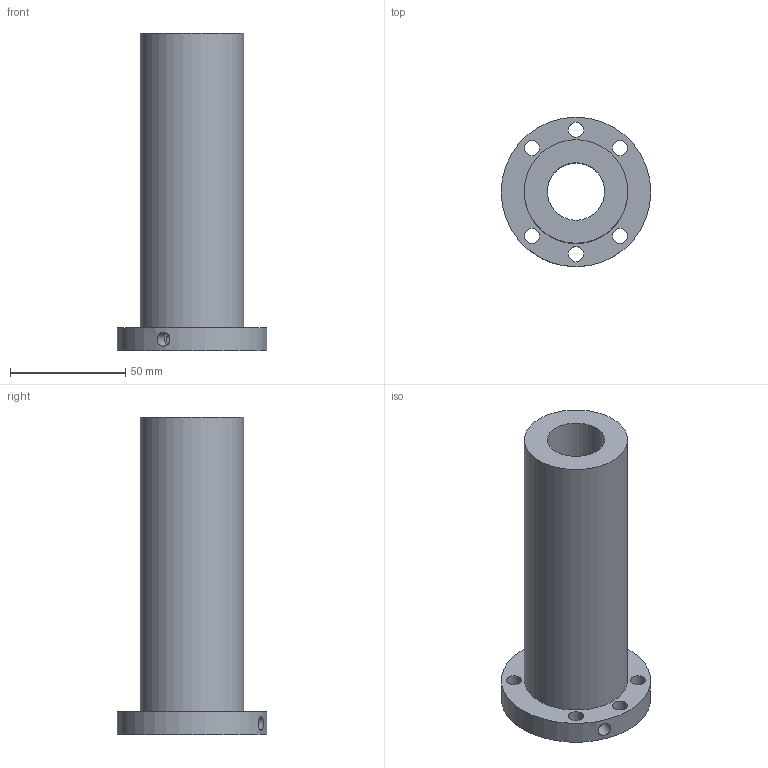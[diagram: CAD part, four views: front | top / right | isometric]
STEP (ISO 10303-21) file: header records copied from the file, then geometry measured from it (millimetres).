
FILE_DESCRIPTION(/* description */ (''),/* implementation_level */ '2;1');
FILE_NAME(/* name */ '25-12K4_3969',/* time_stamp */ '2007-10-15T12:54:01+08:00',/* author */ (''),/* organization */ (''),/* preprocessor_version */ 'ST-DEVELOPER v11',/* originating_system */ 'UGS - NX 5.0',/* authorisation */ '');
FILE_SCHEMA (('CONFIG_CONTROL_DESIGN'));
Length unit declared in the file: millimetre
Products named in the file (1): 25-12K4_3969
Bounding box: 65 x 65 x 138 mm (x, y, z)
Volume: 166588.6 mm3; surface area: 37740.6 mm2
Topology: 1 solids, 1 shells, 15 faces, 34 edges, 23 vertices
Faces by surface type: cylinder 11, plane 4
Full cylindrical faces by diameter (mm): 4 x1, 6 x1, 6.6 x6, 25 x1, 45 x1, 65 x1
Entity records: 600 total; most frequent: CARTESIAN_POINT 174, DIRECTION 72, FACE_BOUND 44, EDGE_LOOP 44, ORIENTED_EDGE 44, AXIS2_PLACEMENT_3D 36, VERTEX_POINT 22, EDGE_CURVE 22
